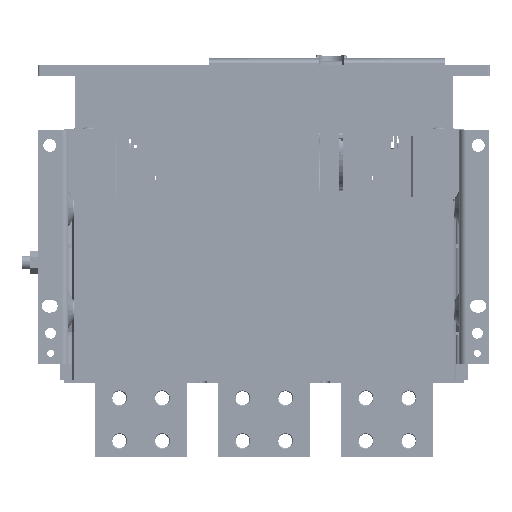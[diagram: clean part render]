
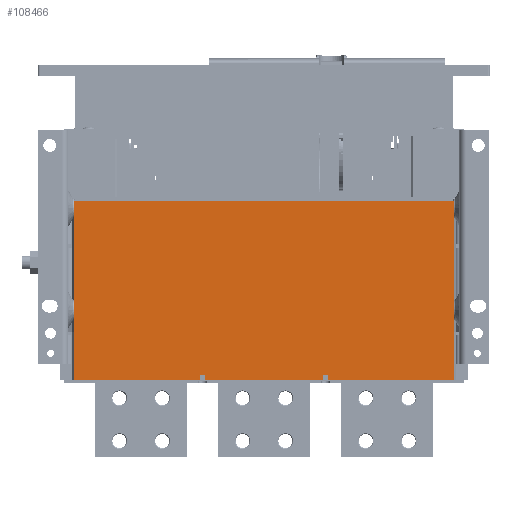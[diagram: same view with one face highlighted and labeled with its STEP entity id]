
A CAD part, front view. The second image highlights one B-rep face of the part: STEP entity #108466.
In plain terms, the highlighted planar face has unit normal (0, -1, 0) as drawn and (1, 0, 0) by its records, which use the part's own axes.
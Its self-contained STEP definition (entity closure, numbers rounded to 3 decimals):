
#289 = CARTESIAN_POINT ( 'NONE',  ( 358.258, -76.064, -285. ) ) ;
#2733 = EDGE_CURVE ( 'NONE', #87311, #114106, #67327, .T. ) ;
#2925 = DIRECTION ( 'NONE',  ( 0., -1., 0. ) ) ;
#13298 = ORIENTED_EDGE ( 'NONE', *, *, #21213, .T. ) ;
#14852 = EDGE_CURVE ( 'NONE', #235687, #50988, #187377, .T. ) ;
#14974 = DIRECTION ( 'NONE',  ( 0., -1., 0. ) ) ;
#16297 = DIRECTION ( 'NONE',  ( 0., 0., -1. ) ) ;
#19260 = VECTOR ( 'NONE', #16297, 1000. ) ;
#19336 = EDGE_CURVE ( 'NONE', #114106, #104972, #34087, .T. ) ;
#21213 = EDGE_CURVE ( 'NONE', #170945, #87311, #140373, .T. ) ;
#32572 = DIRECTION ( 'NONE',  ( 0., 0., 1. ) ) ;
#33358 = VERTEX_POINT ( 'NONE', #189829 ) ;
#34087 = LINE ( 'NONE', #112166, #223735 ) ;
#35917 = CARTESIAN_POINT ( 'NONE',  ( 358.258, -196.064, -289.5 ) ) ;
#43787 = CARTESIAN_POINT ( 'NONE',  ( 358.258, 41.436, -289.5 ) ) ;
#46066 = EDGE_LOOP ( 'NONE', ( #125453, #111390, #13298, #238611, #162393, #88930, #145110, #152420, #81606, #162212, #161425, #178961 ) ) ;
#48372 = DIRECTION ( 'NONE',  ( 0., 0., -1. ) ) ;
#50688 = DIRECTION ( 'NONE',  ( 0., 0., -1. ) ) ;
#50988 = VERTEX_POINT ( 'NONE', #289 ) ;
#57185 = CARTESIAN_POINT ( 'NONE',  ( 358.258, -81.064, -289.5 ) ) ;
#59927 = EDGE_CURVE ( 'NONE', #170945, #84532, #134397, .T. ) ;
#67327 = LINE ( 'NONE', #127378, #143445 ) ;
#72518 = EDGE_CURVE ( 'NONE', #182635, #231197, #250424, .T. ) ;
#76156 = CARTESIAN_POINT ( 'NONE',  ( 358.258, -196.064, -289.5 ) ) ;
#76614 = CARTESIAN_POINT ( 'NONE',  ( 358.258, 41.436, -122. ) ) ;
#81606 = ORIENTED_EDGE ( 'NONE', *, *, #14852, .F. ) ;
#81866 = FACE_OUTER_BOUND ( 'NONE', #46066, .T. ) ;
#83125 = DIRECTION ( 'NONE',  ( 1., 0., 0. ) ) ;
#84532 = VERTEX_POINT ( 'NONE', #104199 ) ;
#86765 = CARTESIAN_POINT ( 'NONE',  ( 358.258, -313.564, -122. ) ) ;
#87311 = VERTEX_POINT ( 'NONE', #215343 ) ;
#88930 = ORIENTED_EDGE ( 'NONE', *, *, #197102, .F. ) ;
#89161 = EDGE_CURVE ( 'NONE', #50988, #203469, #182821, .T. ) ;
#92278 = DIRECTION ( 'NONE',  ( 0., -1., 0. ) ) ;
#94315 = LINE ( 'NONE', #57185, #149388 ) ;
#95616 = CARTESIAN_POINT ( 'NONE',  ( 358.258, 41.436, -122. ) ) ;
#98256 = CARTESIAN_POINT ( 'NONE',  ( 358.258, -196.064, -289.5 ) ) ;
#101710 = CARTESIAN_POINT ( 'NONE',  ( 358.258, -313.564, -122. ) ) ;
#104199 = CARTESIAN_POINT ( 'NONE',  ( 358.258, -313.564, -289.5 ) ) ;
#104972 = VERTEX_POINT ( 'NONE', #150078 ) ;
#106080 = CARTESIAN_POINT ( 'NONE',  ( 358.258, -76.064, -285. ) ) ;
#108466 = ADVANCED_FACE ( 'NONE', ( #81866 ), #159835, .T. ) ;
#109918 = CARTESIAN_POINT ( 'NONE',  ( 358.258, -191.064, -285. ) ) ;
#110871 = EDGE_CURVE ( 'NONE', #203469, #33358, #124907, .T. ) ;
#111390 = ORIENTED_EDGE ( 'NONE', *, *, #59927, .F. ) ;
#112166 = CARTESIAN_POINT ( 'NONE',  ( 358.258, -191.064, -285. ) ) ;
#112387 = CARTESIAN_POINT ( 'NONE',  ( 358.258, -81.064, -285. ) ) ;
#114106 = VERTEX_POINT ( 'NONE', #109918 ) ;
#114994 = AXIS2_PLACEMENT_3D ( 'NONE', #237930, #83125, #239189 ) ;
#124907 = LINE ( 'NONE', #147867, #226018 ) ;
#125453 = ORIENTED_EDGE ( 'NONE', *, *, #229800, .T. ) ;
#127378 = CARTESIAN_POINT ( 'NONE',  ( 358.258, -196.064, -285. ) ) ;
#134397 = LINE ( 'NONE', #35917, #243571 ) ;
#135657 = VECTOR ( 'NONE', #196705, 1000. ) ;
#137747 = EDGE_CURVE ( 'NONE', #182635, #140193, #226078, .T. ) ;
#139772 = CARTESIAN_POINT ( 'NONE',  ( 358.258, 41.436, -289.5 ) ) ;
#140193 = VERTEX_POINT ( 'NONE', #101710 ) ;
#140373 = LINE ( 'NONE', #98256, #135657 ) ;
#141778 = LINE ( 'NONE', #86765, #182159 ) ;
#143445 = VECTOR ( 'NONE', #201658, 1000. ) ;
#145110 = ORIENTED_EDGE ( 'NONE', *, *, #110871, .F. ) ;
#147867 = CARTESIAN_POINT ( 'NONE',  ( 358.258, -81.064, -285. ) ) ;
#149388 = VECTOR ( 'NONE', #14974, 1000. ) ;
#150078 = CARTESIAN_POINT ( 'NONE',  ( 358.258, -191.064, -289.5 ) ) ;
#150484 = CARTESIAN_POINT ( 'NONE',  ( 358.258, 41.436, -122. ) ) ;
#152420 = ORIENTED_EDGE ( 'NONE', *, *, #89161, .F. ) ;
#159835 = PLANE ( 'NONE',  #114994 ) ;
#161425 = ORIENTED_EDGE ( 'NONE', *, *, #72518, .F. ) ;
#162212 = ORIENTED_EDGE ( 'NONE', *, *, #178496, .F. ) ;
#162393 = ORIENTED_EDGE ( 'NONE', *, *, #19336, .T. ) ;
#163613 = DIRECTION ( 'NONE',  ( 0., -1., 0. ) ) ;
#170945 = VERTEX_POINT ( 'NONE', #76156 ) ;
#175891 = VECTOR ( 'NONE', #32572, 1000. ) ;
#178496 = EDGE_CURVE ( 'NONE', #231197, #235687, #196105, .T. ) ;
#178961 = ORIENTED_EDGE ( 'NONE', *, *, #137747, .T. ) ;
#180048 = VECTOR ( 'NONE', #2925, 1000. ) ;
#182159 = VECTOR ( 'NONE', #48372, 1000. ) ;
#182635 = VERTEX_POINT ( 'NONE', #76614 ) ;
#182821 = LINE ( 'NONE', #106080, #232317 ) ;
#183617 = CARTESIAN_POINT ( 'NONE',  ( 358.258, -76.064, -289.5 ) ) ;
#187377 = LINE ( 'NONE', #183617, #175891 ) ;
#189829 = CARTESIAN_POINT ( 'NONE',  ( 358.258, -81.064, -289.5 ) ) ;
#190155 = DIRECTION ( 'NONE',  ( 0., 0., -1. ) ) ;
#196105 = LINE ( 'NONE', #139772, #180048 ) ;
#196705 = DIRECTION ( 'NONE',  ( 0., 0., 1. ) ) ;
#197102 = EDGE_CURVE ( 'NONE', #33358, #104972, #94315, .T. ) ;
#201658 = DIRECTION ( 'NONE',  ( 0., 1., 0. ) ) ;
#203469 = VERTEX_POINT ( 'NONE', #112387 ) ;
#215343 = CARTESIAN_POINT ( 'NONE',  ( 358.258, -196.064, -285. ) ) ;
#223735 = VECTOR ( 'NONE', #190155, 1000. ) ;
#226018 = VECTOR ( 'NONE', #50688, 1000. ) ;
#226078 = LINE ( 'NONE', #150484, #240613 ) ;
#227332 = DIRECTION ( 'NONE',  ( 0., -1., 0. ) ) ;
#229800 = EDGE_CURVE ( 'NONE', #140193, #84532, #141778, .T. ) ;
#231197 = VERTEX_POINT ( 'NONE', #43787 ) ;
#232317 = VECTOR ( 'NONE', #163613, 1000. ) ;
#235687 = VERTEX_POINT ( 'NONE', #242241 ) ;
#237930 = CARTESIAN_POINT ( 'NONE',  ( 358.258, 29.936, -200. ) ) ;
#238611 = ORIENTED_EDGE ( 'NONE', *, *, #2733, .T. ) ;
#239189 = DIRECTION ( 'NONE',  ( 0., 1., 0. ) ) ;
#240613 = VECTOR ( 'NONE', #227332, 1000. ) ;
#242241 = CARTESIAN_POINT ( 'NONE',  ( 358.258, -76.064, -289.5 ) ) ;
#243571 = VECTOR ( 'NONE', #92278, 1000. ) ;
#250424 = LINE ( 'NONE', #95616, #19260 ) ;
